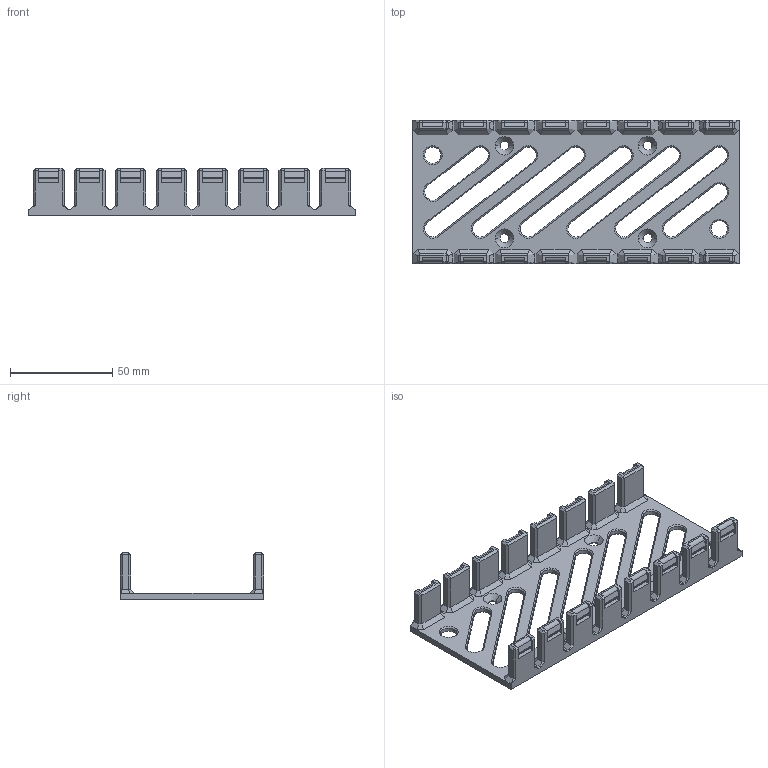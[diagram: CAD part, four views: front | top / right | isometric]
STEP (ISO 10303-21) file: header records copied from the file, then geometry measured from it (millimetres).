
FILE_DESCRIPTION (( 'STEP AP203' ), '1' );
FILE_NAME ('tray__mini--screwMount.STEP', '2024-02-16T04:17:05', ( '' ), ( '' ), 'SwSTEP 2.0', 'SolidWorks 2020', '' );
FILE_SCHEMA (( 'CONFIG_CONTROL_DESIGN' ));
Length unit declared in the file: millimetre
Products named in the file (1): tray__mini--screwMount
Bounding box: 160 x 70 x 23 mm (x, y, z)
Volume: 45531.6 mm3; surface area: 31351.6 mm2
Topology: 1 solids, 1 shells, 655 faces, 1592 edges, 939 vertices
Faces by surface type: plane 548, cone 58, cylinder 49
Entity records: 18562 total; most frequent: CARTESIAN_POINT 3187, ORIENTED_EDGE 3184, DIRECTION 3067, EDGE_CURVE 1592, LINE 1429, VECTOR 1429, VERTEX_POINT 939, AXIS2_PLACEMENT_3D 819
